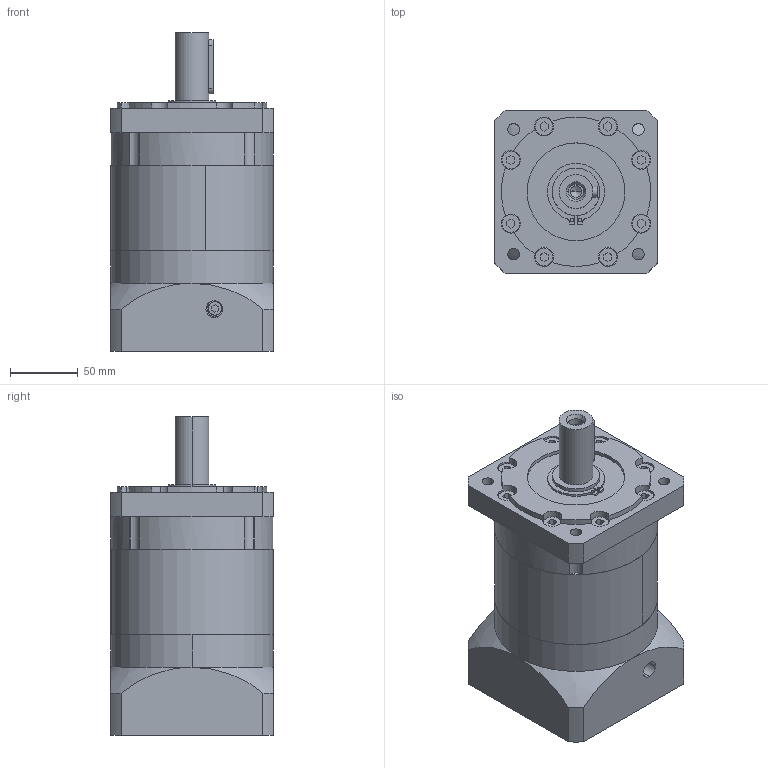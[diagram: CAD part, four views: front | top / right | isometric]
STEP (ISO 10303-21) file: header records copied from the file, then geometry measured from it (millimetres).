
FILE_DESCRIPTION (( 'STEP AP214' ), '1' );
FILE_NAME ('PRF120-L2 目录1.STEP', '2020-09-11T01:56:13', ( '微软用户' ), ( '微软中国' ), 'SwSTEP 2.0', 'SolidWorks 2014', '' );
FILE_SCHEMA (( 'AUTOMOTIVE_DESIGN' ));
Length unit declared in the file: millimetre
Products named in the file (15): PLF120 奻屳唳; PLF120 內齿圈_二级内齿圈; PLF120 蟀諉啣-準梓-芞醱; 囀鞠褒蹟佪 M6x20; PRF120-L2 Ŀ¼1; 粣創-6007 40x68x15; 邧埴瑩 8x7x40; PLF120 狟屳唳
Assembly tree (7 placements, depth 2):
  PLF120 奻屳唳
  PLF120 內齿圈_二级内齿圈
  PLF120 蟀諉啣-準梓-芞醱
  囀鞠褒蹟佪 M6x20
  PRF120-L2 Ŀ¼1
    囀鞠褒蹟佪 M6x20
    PLF120 蟀諉啣-準梓-芞醱
    PLF120 內齿圈_二级内齿圈
    PLF120 奻屳唳
    PLF120 狟屳唳
    邧埴瑩 8x7x40
    粣創-6007 40x68x15
Bounding box: 120 x 120 x 234.5 mm (x, y, z)
Volume: 2031262.9 mm3; surface area: 245416.1 mm2
Topology: 7 solids, 15 shells, 559 faces, 1476 edges, 959 vertices
Faces by surface type: plane 199, cylinder 198, bspline 148, cone 14
Entity records: 29226 total; most frequent: CARTESIAN_POINT 9546, ORIENTED_EDGE 2932, DIRECTION 2522, EDGE_CURVE 1466, AXIS2_PLACEMENT_3D 1025, VERTEX_POINT 959, EDGE_LOOP 657, CIRCLE 603
